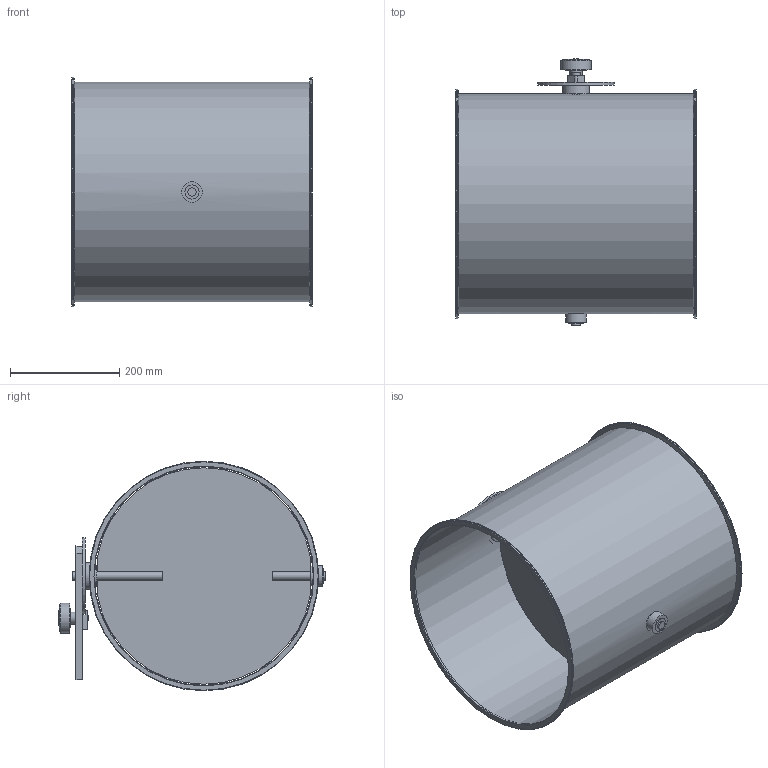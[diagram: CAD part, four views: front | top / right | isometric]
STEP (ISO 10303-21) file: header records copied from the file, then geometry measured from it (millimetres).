
FILE_DESCRIPTION(/* description */ (''),/* implementation_level */ '2;1');
FILE_NAME(/* name */ 'METU_Drosselklappe_Flansch_verzinkt_EA108-80B__400_L440_handbetaetigt.stp',/* time_stamp */ '2022-04-22T14:08:26+02:00',/* author */ (''),/* organization */ (''),/* preprocessor_version */ 'ST-DEVELOPER v11',/* originating_system */ 'SIEMENS UGS NX 6.0',/* authorisation */ '');
FILE_SCHEMA (('CONFIG_CONTROL_DESIGN'));
Length unit declared in the file: millimetre
Products named in the file (1): d.ga332Aq8we
Bounding box: 440 x 487.34 x 420 mm (x, y, z)
Volume: 1097968.8 mm3; surface area: 1497348.1 mm2
Topology: 12 solids, 12 shells, 87 faces, 177 edges, 120 vertices
Faces by surface type: plane 41, cylinder 36, torus 6, sphere 2, cone 2
Full cylindrical faces by diameter (mm): 6 x6, 8.5 x1, 10 x1, 11 x1, 15 x5, 22 x1, 25 x3, 25.85 x2, 26 x2, 38 x3, 48 x1, 49 x1, 55 x1, 140 x1, 400 x1, 402 x1, 420 x2
Entity records: 2166 total; most frequent: CARTESIAN_POINT 382, DIRECTION 368, ORIENTED_EDGE 242, EDGE_LOOP 168, AXIS2_PLACEMENT_3D 163, FACE_BOUND 146, EDGE_CURVE 121, VERTEX_POINT 105
